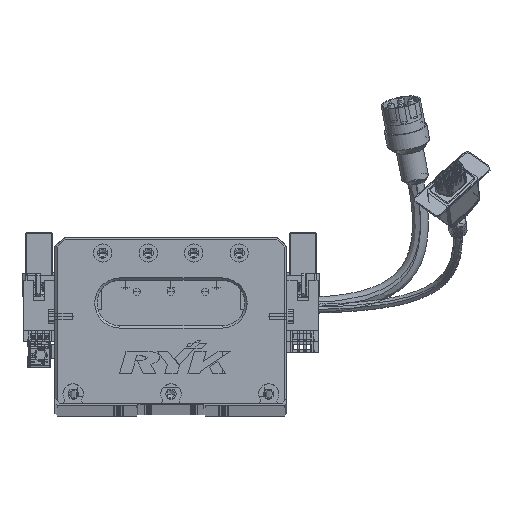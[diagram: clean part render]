
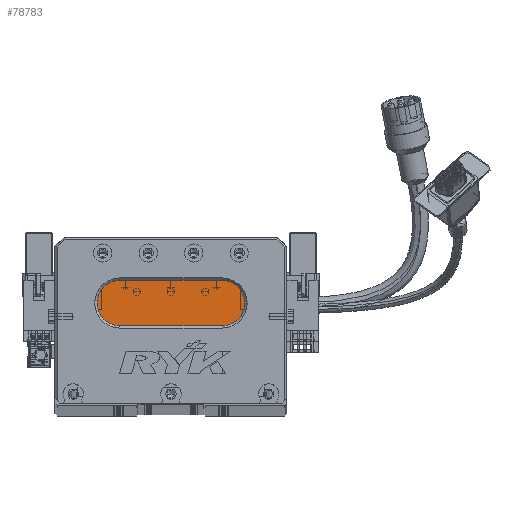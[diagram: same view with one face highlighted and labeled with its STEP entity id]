
A CAD part, top view. The second image highlights one B-rep face of the part: STEP entity #78783.
In plain terms, the highlighted planar face has unit normal (0, 0, 1) as drawn and (0, 0, -1) by its records, which use the part's own axes.
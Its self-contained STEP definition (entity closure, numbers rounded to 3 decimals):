
#25 = CARTESIAN_POINT ( 'NONE',  ( 73.5, 34., 13. ) ) ;
#30 = VECTOR ( 'NONE', #24951, 1000. ) ;
#359 = DIRECTION ( 'NONE',  ( -1., 0., 0. ) ) ;
#1964 = AXIS2_PLACEMENT_3D ( 'NONE', #84292, #9622, #64437 ) ;
#5943 = EDGE_CURVE ( 'NONE', #70847, #41669, #58862, .T. ) ;
#7797 = ORIENTED_EDGE ( 'NONE', *, *, #86183, .T. ) ;
#9622 = DIRECTION ( 'NONE',  ( 0., 0., -1. ) ) ;
#15169 = EDGE_CURVE ( 'NONE', #78746, #70847, #78884, .T. ) ;
#19816 = ORIENTED_EDGE ( 'NONE', *, *, #15169, .T. ) ;
#21804 = CARTESIAN_POINT ( 'NONE',  ( 28.5, 34., 13. ) ) ;
#23953 = CARTESIAN_POINT ( 'NONE',  ( 28.5, 44., 13. ) ) ;
#24951 = DIRECTION ( 'NONE',  ( -1., 0., 0. ) ) ;
#27526 = CARTESIAN_POINT ( 'NONE',  ( 73.5, 44., 13. ) ) ;
#28046 = FACE_OUTER_BOUND ( 'NONE', #70441, .T. ) ;
#29831 = DIRECTION ( 'NONE',  ( 0., 0., -1. ) ) ;
#30262 = ORIENTED_EDGE ( 'NONE', *, *, #71280, .T. ) ;
#30802 = DIRECTION ( 'NONE',  ( 0., 0., -1. ) ) ;
#36960 = CARTESIAN_POINT ( 'NONE',  ( 73.5, 44., 13. ) ) ;
#38815 = VERTEX_POINT ( 'NONE', #21804 ) ;
#40051 = AXIS2_PLACEMENT_3D ( 'NONE', #36960, #29831, #57505 ) ;
#40930 = PLANE ( 'NONE',  #50717 ) ;
#41669 = VERTEX_POINT ( 'NONE', #25 ) ;
#44215 = DIRECTION ( 'NONE',  ( -1., 0., 0. ) ) ;
#47154 = CIRCLE ( 'NONE', #1964, 10. ) ;
#50634 = CIRCLE ( 'NONE', #69548, 10. ) ;
#50717 = AXIS2_PLACEMENT_3D ( 'NONE', #27526, #61776, #359 ) ;
#52620 = VERTEX_POINT ( 'NONE', #68801 ) ;
#57505 = DIRECTION ( 'NONE',  ( -1., 0., 0. ) ) ;
#57627 = LINE ( 'NONE', #71382, #30 ) ;
#58862 = CIRCLE ( 'NONE', #40051, 10. ) ;
#58935 = ORIENTED_EDGE ( 'NONE', *, *, #5943, .T. ) ;
#60818 = VECTOR ( 'NONE', #69930, 1000. ) ;
#61776 = DIRECTION ( 'NONE',  ( 0., 0., -1. ) ) ;
#64437 = DIRECTION ( 'NONE',  ( -1., 0., 0. ) ) ;
#68801 = CARTESIAN_POINT ( 'NONE',  ( 18.5, 44., 13. ) ) ;
#69548 = AXIS2_PLACEMENT_3D ( 'NONE', #23953, #30802, #44215 ) ;
#69930 = DIRECTION ( 'NONE',  ( 1., 0., 0. ) ) ;
#70441 = EDGE_LOOP ( 'NONE', ( #58935, #82956, #30262, #7797, #19816 ) ) ;
#70847 = VERTEX_POINT ( 'NONE', #72535 ) ;
#71280 = EDGE_CURVE ( 'NONE', #38815, #52620, #50634, .T. ) ;
#71382 = CARTESIAN_POINT ( 'NONE',  ( 73.5, 34., 13. ) ) ;
#72535 = CARTESIAN_POINT ( 'NONE',  ( 73.5, 54., 13. ) ) ;
#74831 = CARTESIAN_POINT ( 'NONE',  ( 28.5, 54., 13. ) ) ;
#78746 = VERTEX_POINT ( 'NONE', #74831 ) ;
#78783 = ADVANCED_FACE ( 'NONE', ( #28046 ), #40930, .T. ) ;
#78884 = LINE ( 'NONE', #83591, #60818 ) ;
#80282 = EDGE_CURVE ( 'NONE', #41669, #38815, #57627, .T. ) ;
#82956 = ORIENTED_EDGE ( 'NONE', *, *, #80282, .T. ) ;
#83591 = CARTESIAN_POINT ( 'NONE',  ( 73.5, 54., 13. ) ) ;
#84292 = CARTESIAN_POINT ( 'NONE',  ( 28.5, 44., 13. ) ) ;
#86183 = EDGE_CURVE ( 'NONE', #52620, #78746, #47154, .T. ) ;
